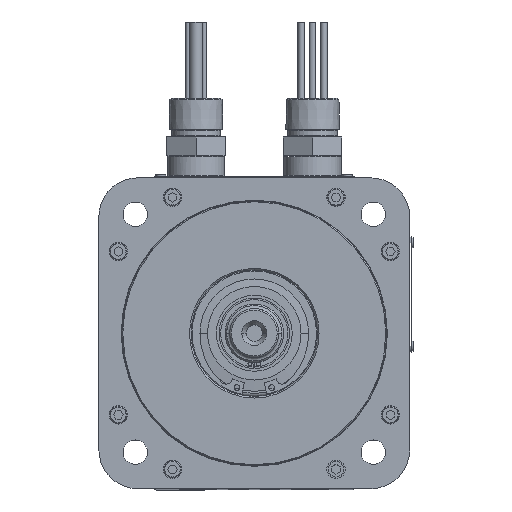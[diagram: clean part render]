
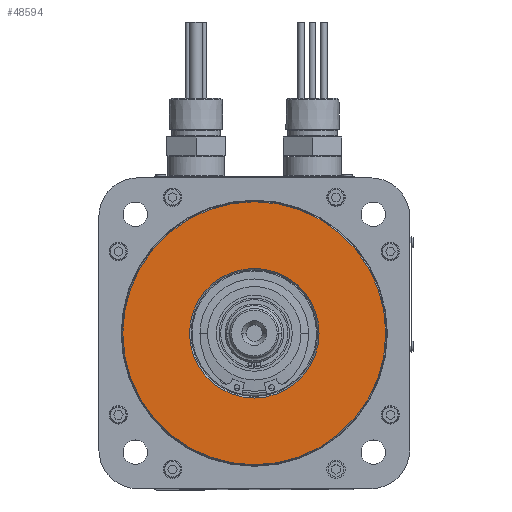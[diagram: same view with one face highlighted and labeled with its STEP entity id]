
A CAD part, top view. The second image highlights one B-rep face of the part: STEP entity #48594.
In plain terms, the highlighted planar face has unit normal (0, 0, 1).
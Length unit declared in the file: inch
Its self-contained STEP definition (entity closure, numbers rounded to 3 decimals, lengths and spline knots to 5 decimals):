
#116 = EDGE_CURVE ( 'NONE', #32151, #32152, #8468, .T. ) ;
#133 = EDGE_CURVE ( 'NONE', #32155, #32156, #8493, .T. ) ;
#1029 = CARTESIAN_POINT ( 'NONE',  ( 0., 0., -1.827 ) ) ;
#1032 = DIRECTION ( 'NONE',  ( 0., 0., -1. ) ) ;
#1033 = DIRECTION ( 'NONE',  ( 1., 0., 0. ) ) ;
#1045 = CARTESIAN_POINT ( 'NONE',  ( 0., 0., -1.827 ) ) ;
#1051 = DIRECTION ( 'NONE',  ( 0., 0., 1. ) ) ;
#1052 = DIRECTION ( 'NONE',  ( 1., 0., 0. ) ) ;
#3111 = CIRCLE ( 'NONE', #11157, 1.25055 ) ;
#3469 = CIRCLE ( 'NONE', #11250, 2.53906 ) ;
#8468 = CIRCLE ( 'NONE', #10008, 1.25055 ) ;
#8493 = CIRCLE ( 'NONE', #10003, 2.53906 ) ;
#10003 = AXIS2_PLACEMENT_3D ( 'NONE', #1045, #1051, #1052 ) ;
#10008 = AXIS2_PLACEMENT_3D ( 'NONE', #1029, #1032, #1033 ) ;
#11157 = AXIS2_PLACEMENT_3D ( 'NONE', #54646, #54653, #54654 ) ;
#11250 = AXIS2_PLACEMENT_3D ( 'NONE', #30878, #30884, #30885 ) ;
#18035 = EDGE_LOOP ( 'NONE', ( #52047, #52044 ) ) ;
#18082 = EDGE_LOOP ( 'NONE', ( #52043, #52034 ) ) ;
#26096 = CARTESIAN_POINT ( 'NONE',  ( 0., 1.22055, -1.827 ) ) ;
#26098 = PLANE ( 'NONE',  #49410 ) ;
#26102 = DIRECTION ( 'NONE',  ( 0., 0., 1. ) ) ;
#26104 = DIRECTION ( 'NONE',  ( 1., 0., 0. ) ) ;
#29284 = FACE_OUTER_BOUND ( 'NONE', #18035, .T. ) ;
#29292 = FACE_BOUND ( 'NONE', #18082, .T. ) ;
#30878 = CARTESIAN_POINT ( 'NONE',  ( 0., 0., -1.827 ) ) ;
#30884 = DIRECTION ( 'NONE',  ( 0., 0., 1. ) ) ;
#30885 = DIRECTION ( 'NONE',  ( 1., 0., 0. ) ) ;
#32151 = VERTEX_POINT ( 'NONE', #38486 ) ;
#32152 = VERTEX_POINT ( 'NONE', #38487 ) ;
#32155 = VERTEX_POINT ( 'NONE', #38490 ) ;
#32156 = VERTEX_POINT ( 'NONE', #38491 ) ;
#38486 = CARTESIAN_POINT ( 'NONE',  ( 1.25055, 0., -1.827 ) ) ;
#38487 = CARTESIAN_POINT ( 'NONE',  ( -1.25055, 0., -1.827 ) ) ;
#38490 = CARTESIAN_POINT ( 'NONE',  ( 2.53906, 0., -1.827 ) ) ;
#38491 = CARTESIAN_POINT ( 'NONE',  ( -2.53906, 0., -1.827 ) ) ;
#44676 = EDGE_CURVE ( 'NONE', #32152, #32151, #3111, .T. ) ;
#44903 = EDGE_CURVE ( 'NONE', #32156, #32155, #3469, .T. ) ;
#48594 = ADVANCED_FACE ( 'NONE', ( #29284, #29292 ), #26098, .T. ) ;
#49410 = AXIS2_PLACEMENT_3D ( 'NONE', #26096, #26102, #26104 ) ;
#52034 = ORIENTED_EDGE ( 'NONE', *, *, #44676, .T. ) ;
#52043 = ORIENTED_EDGE ( 'NONE', *, *, #116, .T. ) ;
#52044 = ORIENTED_EDGE ( 'NONE', *, *, #133, .T. ) ;
#52047 = ORIENTED_EDGE ( 'NONE', *, *, #44903, .T. ) ;
#54646 = CARTESIAN_POINT ( 'NONE',  ( 0., 0., -1.827 ) ) ;
#54653 = DIRECTION ( 'NONE',  ( 0., 0., -1. ) ) ;
#54654 = DIRECTION ( 'NONE',  ( 1., 0., 0. ) ) ;
